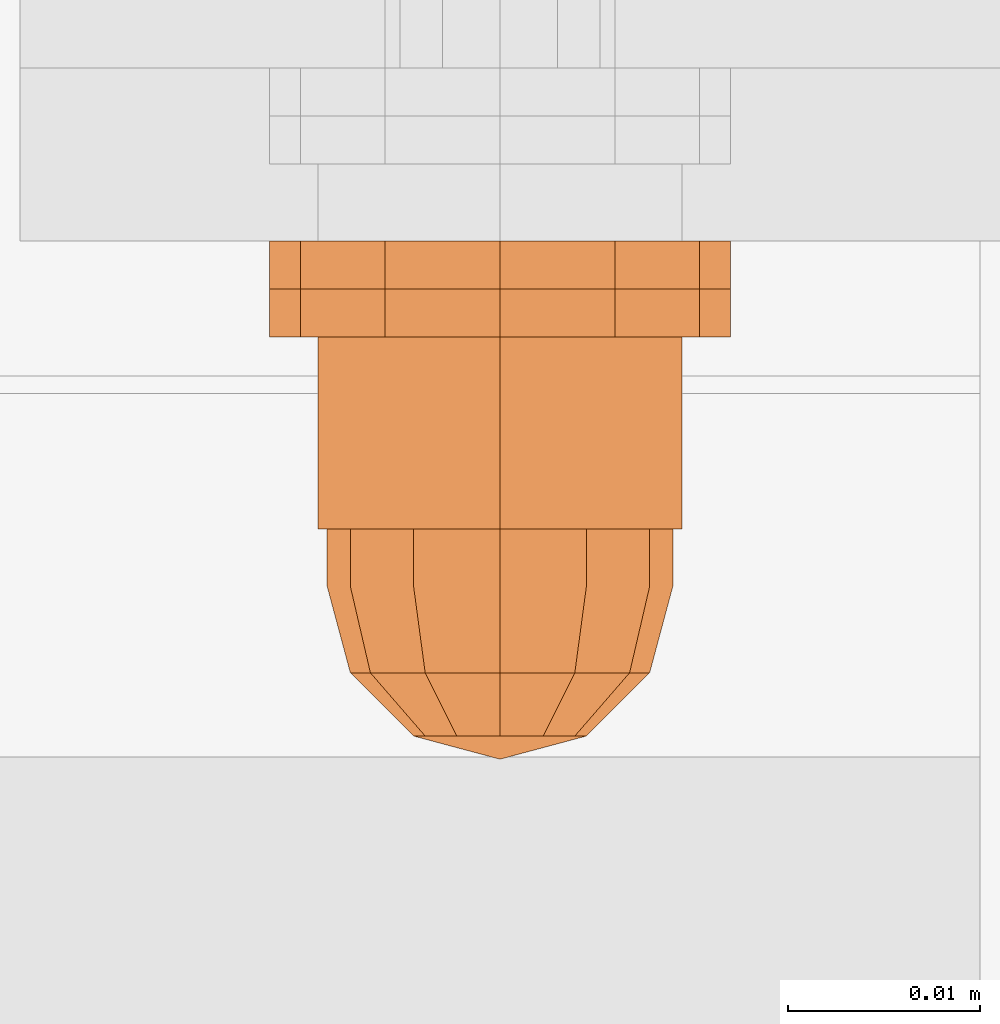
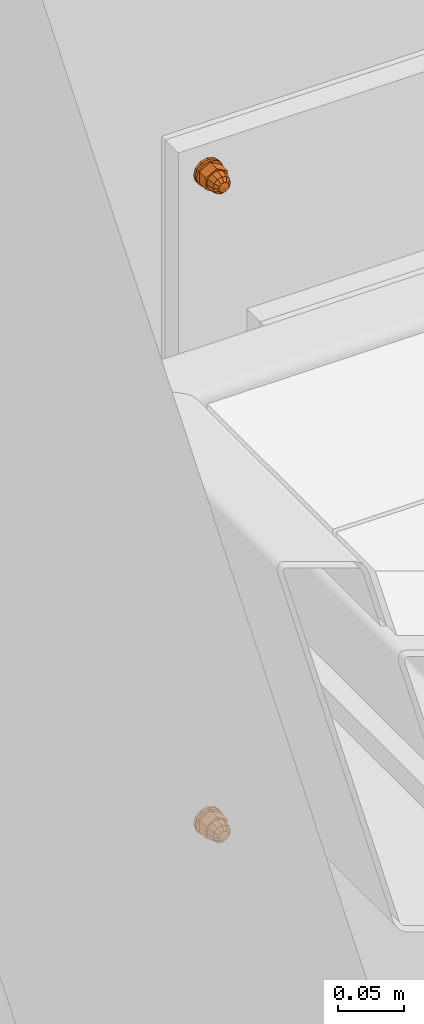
# One storey, part 135 of 162: 6 proxies.
"""IFC2X3 building model written with IfcOpenShell, lengths in millimetres."""

import ifcopenshell
import ifcopenshell.guid

model = None  # the IFC model being written
_history = None  # IfcOwnerHistory: only IFC2X3 demands one
_inside = {}  # id of a spatial element -> (the spatial element, [elements in it])
_under = {}  # id of a project, library or spatial element -> (it, [spatial elements below it])
_declared = {}  # id of a project -> (the project, [libraries it declares])
_typed = {}  # id of a type object -> (the type object, [elements of that type])
_made_of = {}  # id of a material, layer set ... -> (it, [elements and type objects made of it])


def new_model(schema):
    """Start an empty IFC model of exactly this schema.

    Asked for "IFC4X3", IfcOpenShell would pick the latest addendum, in which some entities
    have other attributes; the version numbers below select the first issue.
    IFC2X3 requires an IfcOwnerHistory on every rooted entity: one is made here for all.
    """
    global model, _history
    if schema == "IFC4X3":
        model = ifcopenshell.file(schema_version=(4, 3, 0, 0))
    else:
        model = ifcopenshell.file(schema=schema)
    _inside.clear()
    _under.clear()
    _declared.clear()
    _typed.clear()
    _made_of.clear()
    _history = None
    if model.schema == "IFC2X3":
        org = make("IfcOrganization", Name="unknown")
        user = make(
            "IfcPersonAndOrganization",
            ThePerson=make("IfcPerson", FamilyName="unknown"),
            TheOrganization=org,
        )
        app = make(
            "IfcApplication",
            ApplicationDeveloper=org,
            Version="unknown",
            ApplicationFullName="unknown",
            ApplicationIdentifier="unknown",
        )
        _history = make(
            "IfcOwnerHistory",
            OwningUser=user,
            OwningApplication=app,
            ChangeAction="ADDED",
            CreationDate=0,
        )
    return model


def make(cls, **values):
    """One entity of the class cls with the attributes given. An attribute that is None is left unset."""
    return model.create_entity(
        cls, **{name: value for name, value in values.items() if value is not None}
    )


def entity(cls, *values):
    """Any entity or typed value of the class cls, its attributes in the order of the schema. None: left unset."""
    e = model.create_entity(cls)
    for i, value in enumerate(values):
        if value is not None:
            e[i] = value
    return e


def rooted(cls, **values):
    """An entity with a GlobalId (a new one), such as an element, a storey or a relation."""
    return make(cls, GlobalId=ifcopenshell.guid.new(), OwnerHistory=_history, **values)


def si_unit(unit_type, name, prefix=None):
    """IfcSIUnit, for example si_unit("LENGTHUNIT", "METRE", prefix="MILLI")."""
    return make("IfcSIUnit", UnitType=unit_type, Prefix=prefix, Name=name)


def converted_unit(unit_type, name, factor, base, dimensions=None, offset=None):
    """IfcConversionBasedUnit, such as the inch: factor (a typed value) times the base unit."""
    return make(
        "IfcConversionBasedUnit"
        if offset is None
        else "IfcConversionBasedUnitWithOffset",
        ConversionOffset=offset,
        Dimensions=None
        if dimensions is None
        else entity("IfcDimensionalExponents", *dimensions),
        UnitType=unit_type,
        Name=name,
        ConversionFactor=make(
            "IfcMeasureWithUnit", ValueComponent=factor, UnitComponent=base
        ),
    )


def assignment(units):
    """IfcUnitAssignment: the units of a project."""
    return None if units is None else make("IfcUnitAssignment", Units=units)


def point(xyz):
    """IfcCartesianPoint."""
    return None if xyz is None else make("IfcCartesianPoint", Coordinates=xyz)


def direction(xyz):
    """IfcDirection."""
    return None if xyz is None else make("IfcDirection", DirectionRatios=xyz)


def frame(location, z_axis=None, x_axis=None):
    """IfcAxis2Placement3D, a coordinate frame: its origin and axes. An axis left out is left unset."""
    return make(
        "IfcAxis2Placement3D",
        Location=point(location),
        Axis=direction(z_axis),
        RefDirection=direction(x_axis),
    )


def origin_with_axes():
    """The frame at (0, 0, 0) with the z axis (0, 0, 1) and the x axis (1, 0, 0) written out."""
    return frame((0.0, 0.0, 0.0), z_axis=(0.0, 0.0, 1.0), x_axis=(1.0, 0.0, 0.0))


def place(relative_to, where):
    """IfcLocalPlacement: puts the frame where relative to a parent placement (None: the world)."""
    return make(
        "IfcLocalPlacement", PlacementRelTo=relative_to, RelativePlacement=where
    )


def context(
    kind, dimensions, precision=None, world=None, true_north=None, identifier=None
):
    """IfcGeometricRepresentationContext, for example the 3D "Model" context."""
    return make(
        "IfcGeometricRepresentationContext",
        ContextIdentifier=identifier,
        ContextType=kind,
        CoordinateSpaceDimension=dimensions,
        Precision=precision,
        WorldCoordinateSystem=world,
        TrueNorth=true_north,
    )


def project(units=None, contexts=None):
    """IfcProject with its units and contexts."""
    return rooted(
        "IfcProject",
        Name="project",
        RepresentationContexts=contexts,
        UnitsInContext=assignment(units),
    )


def spatial(cls, under=None, at=None, **own):
    """A site, building, storey or space (cls), placed at a placement, below another one or the project."""
    s = rooted(cls, ObjectPlacement=at, **own)
    if under is not None:
        _under.setdefault(under.id(), (under, []))[1].append(s)
    return s


def faces_of(points, faces, orient=None, outer=None):
    """IfcFace entities. A face is a list of loops; a loop is a list of indices into points, from 0.

    orient and outer hold one flag for each loop. By default every Orientation is true, the
    first loop of a face is its IfcFaceOuterBound and the others are IfcFaceBound.
    """
    made = []
    for i, loops in enumerate(faces):
        bounds = []
        for j, loop in enumerate(loops):
            is_outer = j == 0 if outer is None else outer[i][j]
            bounds.append(
                make(
                    "IfcFaceOuterBound" if is_outer else "IfcFaceBound",
                    Bound=make("IfcPolyLoop", Polygon=[points[k] for k in loop]),
                    Orientation=True if orient is None else orient[i][j],
                )
            )
        made.append(make("IfcFace", Bounds=bounds))
    return made


def faceted_brep(points, faces, orient=None, outer=None, voids=None):
    """IfcFacetedBrep: a solid bounded by flat faces; with voids (closed shells), ...WithVoids."""
    shared = [point(p) for p in points]
    hull = make("IfcClosedShell", CfsFaces=faces_of(shared, faces, orient, outer))
    if voids is None:
        return make("IfcFacetedBrep", Outer=hull)
    return make(
        "IfcFacetedBrepWithVoids",
        Outer=hull,
        Voids=[
            make(cls, CfsFaces=faces_of(shared, fs, o, b)) for cls, fs, o, b in voids
        ],
    )


def shape(context_of_items, identifier, shape_type, items):
    """IfcShapeRepresentation: the items that make up one representation, for example the "Body"."""
    return make(
        "IfcShapeRepresentation",
        ContextOfItems=context_of_items,
        RepresentationIdentifier=identifier,
        RepresentationType=shape_type,
        Items=items,
    )


def material(Name=None, Category=None):
    """IfcMaterial."""
    return make("IfcMaterial", Name=Name, Category=Category)


def made_of(thing, what):
    """Note that an element or type object is made of a material, layer set ...; save() writes the relation."""
    if what is not None:
        _made_of.setdefault(what.id(), (what, []))[1].append(thing)
    return thing


def element(
    cls,
    number,
    at=None,
    inside=None,
    cuts=None,
    type_object=None,
    material=None,
    context=None,
    identifier="Body",
    shape_type=None,
    held_by="IfcProductDefinitionShape",
    body=None,
    shapes=None,
    **own,
):
    """One element of the class cls, such as IfcWall. Its Tag is "e" and its number.

    at: its placement. inside: the storey or other place that contains it. cuts: it is an
    opening in that element (IfcRelVoidsElement). A single representation is given by context,
    identifier, shape_type and body (its items); several are given by shapes. held_by: the class
    of the entity that holds the representations. save() writes the other relations.
    """
    e = rooted(cls, Tag="e%d" % number, ObjectPlacement=at, **own)
    if body is not None:
        shapes = [shape(context, identifier, shape_type, body)]
    if shapes is not None:
        e.Representation = make(held_by, Representations=shapes)
    if inside is not None:
        _inside.setdefault(inside.id(), (inside, []))[1].append(e)
    if cuts is not None:
        rooted(
            "IfcRelVoidsElement", RelatingBuildingElement=cuts, RelatedOpeningElement=e
        )
    if type_object is not None:
        _typed.setdefault(type_object.id(), (type_object, []))[1].append(e)
    return made_of(e, material)


def aggregate(whole, parts):
    """IfcRelAggregates: a whole, such as a stair, and the parts it consists of."""
    return rooted("IfcRelAggregates", RelatingObject=whole, RelatedObjects=parts)


def save(model, path):
    """Write the relations noted so far, then the file.

    IfcRelAggregates (storeys below a building ...), IfcRelContainedInSpatialStructure (elements
    in a storey), IfcRelDefinesByType, IfcRelAssociatesMaterial and IfcRelDeclares: one each for
    every whole, place, type object, material and project.
    """
    for whole, parts in _under.values():
        aggregate(whole, parts)
    for where, things in _inside.values():
        rooted(
            "IfcRelContainedInSpatialStructure",
            RelatedElements=things,
            RelatingStructure=where,
        )
    for kind, things in _typed.values():
        rooted("IfcRelDefinesByType", RelatedObjects=things, RelatingType=kind)
    for what, things in _made_of.values():
        rooted("IfcRelAssociatesMaterial", RelatedObjects=things, RelatingMaterial=what)
    for by, libraries in _declared.values():
        rooted("IfcRelDeclares", RelatingContext=by, RelatedDefinitions=libraries)
    model.write(path)


model = new_model("IFC2X3")

# Units and contexts
model_context = context("Model", 3, precision=1e-09, world=origin_with_axes())
ifc_project = project(units=[si_unit("LENGTHUNIT", "METRE", prefix="MILLI"), si_unit("AREAUNIT", "SQUARE_METRE"), si_unit("VOLUMEUNIT", "CUBIC_METRE"), converted_unit("PLANEANGLEUNIT", "DEGREE", entity("IfcPlaneAngleMeasure", 0.01745329), si_unit("PLANEANGLEUNIT", "RADIAN"), dimensions=[0, 0, 0, 0, 0, 0, 0])], contexts=[model_context])

# Site, building, storey
site_placement = place(None, origin_with_axes())
site = spatial("IfcSite", under=ifc_project, at=site_placement, Name="Hermannstra?e 1a, 60318 Frankfurt", CompositionType="ELEMENT")
building_placement = place(site_placement, origin_with_axes())
building = spatial("IfcBuilding", under=site, at=building_placement, Name="Struktur 1", CompositionType="ELEMENT")
storey_placement = place(building_placement, origin_with_axes())
storey = spatial("IfcBuildingStorey", under=building, at=storey_placement, Name="Default Storey", CompositionType="ELEMENT", Elevation=0.0)

# Proxies
ifc_material_1 = material(Name="A4")
proxy_1_placement = place(None, origin_with_axes())
element("IfcBuildingElementProxy", 1, at=proxy_1_placement, inside=storey, material=ifc_material_1, ObjectType="-", context=model_context, shape_type="Brep", body=[
    faceted_brep([(2684.309364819, 2695.609373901, 11004.999), (2684.309364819, 2705.609373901, 11004.999), (2683.505517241, 2705.609373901, 11001.999), (2683.505517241, 2695.609373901, 11001.999), (2681.309364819, 2705.609373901, 10999.802847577), (2681.309364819, 2695.609373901, 10999.802847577), (2683.505517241, 2695.609373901, 11007.999), (2683.505517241, 2705.609373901, 11007.999), (2687.789234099, 2705.609373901, 11010.472205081), (2687.789234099, 2705.609373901, 10999.525794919), (2678.309364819, 2705.609373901, 10994.052589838), (2668.829495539, 2705.609373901, 10999.525794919), (2668.829495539, 2705.609373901, 11010.472205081), (2678.309364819, 2705.609373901, 11015.945410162), (2681.309364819, 2705.609373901, 11010.195152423), (2678.309364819, 2705.609373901, 11010.999), (2675.309364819, 2705.609373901, 11010.195152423), (2673.113212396, 2705.609373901, 11007.999), (2672.309364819, 2705.609373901, 11004.999), (2673.113212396, 2705.609373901, 11001.999), (2675.309364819, 2705.609373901, 10999.802847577), (2678.309364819, 2705.609373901, 10998.999), (2687.789234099, 2695.609373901, 11010.472205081), (2678.309364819, 2695.609373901, 11015.945410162), (2668.829495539, 2695.609373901, 11010.472205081), (2668.829495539, 2695.609373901, 10999.525794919), (2678.309364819, 2695.609373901, 10994.052589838), (2687.789234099, 2695.609373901, 10999.525794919), (2681.309364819, 2695.609373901, 11010.195152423), (2678.309364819, 2695.609373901, 10998.999), (2678.309364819, 2695.609373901, 11010.999), (2675.309364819, 2695.609373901, 10999.802847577), (2675.309364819, 2695.609373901, 11010.195152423), (2673.113212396, 2695.609373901, 11001.999), (2673.113212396, 2695.609373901, 11007.999), (2672.309364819, 2695.609373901, 11004.999)], [[[0, 1, 2, 3]], [[3, 2, 4, 5]], [[1, 0, 6, 7]], [[8, 9, 10, 11, 12, 13], [7, 14, 15, 16, 17, 18, 19, 20, 21, 4, 2, 1]], [[22, 23, 24, 25, 26, 27]], [[7, 6, 28, 14]], [[22, 27, 9, 8]], [[5, 4, 21, 29]], [[10, 9, 27, 26]], [[14, 28, 30, 15]], [[23, 22, 8, 13]], [[29, 21, 20, 31]], [[11, 10, 26, 25]], [[15, 30, 32, 16]], [[24, 23, 13, 12]], [[31, 20, 19, 33]], [[25, 24, 12, 11]], [[16, 32, 34, 17]], [[33, 19, 18, 35]], [[17, 34, 35, 18]]]),
    faceted_brep([(2678.309364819, 2692.609373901, 11013.999), (2678.309364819, 2695.609373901, 11013.999), (2673.809364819, 2695.609373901, 11012.793228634), (2673.809364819, 2692.609373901, 11012.793228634), (2682.809364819, 2692.609373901, 11012.793228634), (2682.809364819, 2695.609373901, 11012.793228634), (2682.809364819, 2692.609373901, 10997.204771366), (2686.103593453, 2692.609373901, 11000.499), (2687.309364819, 2692.609373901, 11004.999), (2686.103593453, 2692.609373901, 11009.499), (2670.515136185, 2692.609373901, 11009.499), (2669.309364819, 2692.609373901, 11004.999), (2670.515136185, 2692.609373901, 11000.499), (2673.809364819, 2692.609373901, 10997.204771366), (2678.309364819, 2692.609373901, 10995.999), (2673.809364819, 2695.609373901, 10997.204771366), (2670.515136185, 2695.609373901, 11000.499), (2669.309364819, 2695.609373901, 11004.999), (2670.515136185, 2695.609373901, 11009.499), (2686.103593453, 2695.609373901, 11009.499), (2687.309364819, 2695.609373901, 11004.999), (2686.103593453, 2695.609373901, 11000.499), (2682.809364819, 2695.609373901, 10997.204771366), (2678.309364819, 2695.609373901, 10995.999)], [[[0, 1, 2, 3]], [[1, 0, 4, 5]], [[6, 7, 8, 9, 4, 0, 3, 10, 11, 12, 13, 14]], [[15, 16, 17, 18, 2, 1, 5, 19, 20, 21, 22, 23]], [[3, 2, 18, 10]], [[5, 4, 9, 19]], [[10, 18, 17, 11]], [[19, 9, 8, 20]], [[22, 6, 14, 23]], [[7, 21, 20, 8]], [[6, 22, 21, 7]], [[11, 17, 16, 12]], [[23, 14, 13, 15]], [[12, 16, 15, 13]]]),
    faceted_brep([(2685.059364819, 2688.109373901, 11008.896114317), (2686.103593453, 2692.609373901, 11009.499), (2682.809364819, 2692.609373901, 11012.793228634), (2682.206479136, 2688.109373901, 11011.749), (2673.809364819, 2692.609373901, 10997.204771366), (2670.515136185, 2692.609373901, 11000.499), (2669.309364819, 2692.609373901, 11004.999), (2670.515136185, 2692.609373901, 11009.499), (2673.809364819, 2692.609373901, 11012.793228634), (2678.309364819, 2692.609373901, 11013.999), (2687.309364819, 2692.609373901, 11004.999), (2686.103593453, 2692.609373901, 11000.499), (2682.809364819, 2692.609373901, 10997.204771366), (2678.309364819, 2692.609373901, 10995.999), (2678.309364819, 2688.109373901, 11012.793228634), (2682.809364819, 2684.815145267, 11004.999), (2686.103593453, 2688.109373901, 11004.999), (2682.206479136, 2684.815145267, 11007.249), (2674.412250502, 2688.109373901, 11011.749), (2680.559364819, 2684.815145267, 11008.896114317), (2682.206479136, 2684.815145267, 11002.749), (2685.059364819, 2688.109373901, 11001.101885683), (2678.309364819, 2684.815145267, 11009.499), (2678.309364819, 2683.609373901, 11004.999), (2680.559364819, 2684.815145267, 11001.101885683), (2682.206479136, 2688.109373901, 10998.249), (2678.309364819, 2688.109373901, 10997.204771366), (2671.559364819, 2688.109373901, 11008.896114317), (2676.059364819, 2684.815145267, 11008.896114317), (2678.309364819, 2684.815145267, 11000.499), (2674.412250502, 2688.109373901, 10998.249), (2676.059364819, 2684.815145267, 11001.101885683), (2670.515136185, 2688.109373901, 11004.999), (2674.412250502, 2684.815145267, 11007.249), (2671.559364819, 2688.109373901, 11001.101885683), (2674.412250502, 2684.815145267, 11002.749), (2673.809364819, 2684.815145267, 11004.999)], [[[0, 1, 2, 3]], [[4, 5, 6, 7, 8, 9, 2, 1, 10, 11, 12, 13]], [[3, 2, 9, 14]], [[15, 16, 0, 17]], [[1, 0, 16, 10]], [[14, 9, 8, 18]], [[17, 0, 3, 19]], [[16, 15, 20, 21]], [[19, 3, 14, 22]], [[17, 23, 15]], [[24, 25, 21, 20]], [[15, 23, 20]], [[12, 25, 26, 13]], [[11, 21, 25, 12]], [[10, 16, 21, 11]], [[18, 8, 7, 27]], [[22, 14, 18, 28]], [[19, 23, 17]], [[29, 26, 25, 24]], [[20, 23, 24]], [[22, 23, 19]], [[13, 26, 30, 4]], [[26, 29, 31, 30]], [[24, 23, 29]], [[27, 7, 6, 32]], [[28, 18, 27, 33]], [[28, 23, 22]], [[29, 23, 31]], [[33, 23, 28]], [[4, 30, 34, 5]], [[30, 31, 35, 34]], [[31, 23, 35]], [[32, 6, 5, 34]], [[33, 27, 32, 36]], [[36, 23, 33]], [[35, 23, 36]], [[34, 35, 36, 32]]]),
])
proxy_2_placement = place(None, origin_with_axes())
element("IfcBuildingElementProxy", 2, at=proxy_2_placement, inside=storey, material=ifc_material_1, ObjectType="-", context=model_context, shape_type="Brep", body=[
    faceted_brep([(2667.917059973, 2708.109373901, 11010.999), (2667.917059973, 2705.609373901, 11010.999), (2672.309364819, 2705.609373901, 11015.391304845), (2672.309364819, 2708.109373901, 11015.391304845), (2666.309364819, 2705.609373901, 11004.999), (2667.917059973, 2705.609373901, 10998.999), (2672.309364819, 2705.609373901, 10994.606695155), (2678.309364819, 2705.609373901, 10992.999), (2684.309364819, 2705.609373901, 10994.606695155), (2688.701669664, 2705.609373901, 10998.999), (2690.309364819, 2705.609373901, 11004.999), (2688.701669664, 2705.609373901, 11010.999), (2684.309364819, 2705.609373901, 11015.391304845), (2678.309364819, 2705.609373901, 11016.999), (2678.309364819, 2705.609373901, 11011.499), (2681.559364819, 2705.609373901, 11010.628165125), (2683.938529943, 2705.609373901, 11008.249), (2684.809364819, 2705.609373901, 11004.999), (2683.938529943, 2705.609373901, 11001.749), (2681.559364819, 2705.609373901, 10999.369834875), (2678.309364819, 2705.609373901, 10998.499), (2675.059364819, 2705.609373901, 10999.369834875), (2672.680199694, 2705.609373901, 11001.749), (2671.809364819, 2705.609373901, 11004.999), (2672.680199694, 2705.609373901, 11008.249), (2675.059364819, 2705.609373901, 11010.628165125), (2672.680199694, 2708.109373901, 11008.249), (2671.809364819, 2708.109373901, 11004.999), (2672.680199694, 2708.109373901, 11001.749), (2675.059364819, 2708.109373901, 10999.369834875), (2678.309364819, 2708.109373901, 10998.499), (2681.559364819, 2708.109373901, 10999.369834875), (2683.938529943, 2708.109373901, 11001.749), (2684.809364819, 2708.109373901, 11004.999), (2683.938529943, 2708.109373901, 11008.249), (2681.559364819, 2708.109373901, 11010.628165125), (2678.309364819, 2708.109373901, 11011.499), (2675.059364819, 2708.109373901, 11010.628165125), (2666.309364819, 2708.109373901, 11004.999), (2678.309364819, 2708.109373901, 11016.999), (2667.917059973, 2708.109373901, 10998.999), (2684.309364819, 2708.109373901, 11015.391304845), (2672.309364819, 2708.109373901, 10994.606695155), (2688.701669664, 2708.109373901, 11010.999), (2678.309364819, 2708.109373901, 10992.999), (2690.309364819, 2708.109373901, 11004.999), (2684.309364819, 2708.109373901, 10994.606695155), (2688.701669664, 2708.109373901, 10998.999)], [[[0, 1, 2, 3]], [[2, 1, 4, 5, 6, 7, 8, 9, 10, 11, 12, 13], [14, 15, 16, 17, 18, 19, 20, 21, 22, 23, 24, 25]], [[26, 27, 28, 29, 30, 31, 32, 33, 34, 35, 36, 37]], [[24, 26, 37, 25]], [[1, 0, 38, 4]], [[26, 24, 23, 27]], [[25, 37, 36, 14]], [[3, 2, 13, 39]], [[4, 38, 40, 5]], [[27, 23, 22, 28]], [[14, 36, 35, 15]], [[39, 13, 12, 41]], [[5, 40, 42, 6]], [[28, 22, 21, 29]], [[15, 35, 34, 16]], [[41, 12, 11, 43]], [[33, 17, 16, 34]], [[6, 42, 44, 7]], [[29, 21, 20, 30]], [[32, 18, 17, 33]], [[43, 11, 10, 45]], [[19, 31, 30, 20]], [[18, 32, 31, 19]], [[7, 44, 46, 8]], [[45, 10, 9, 47]], [[8, 46, 47, 9]]]),
])
ifc_material_2 = material(Name="Kunststoff")
proxy_3_placement = place(None, origin_with_axes())
element("IfcBuildingElementProxy", 3, at=proxy_3_placement, inside=storey, material=ifc_material_2, ObjectType="-", context=model_context, shape_type="Brep", body=[
    faceted_brep([(2688.701669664, 2710.609373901, 11010.999), (2688.701669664, 2708.109373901, 11010.999), (2690.309364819, 2708.109373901, 11004.999), (2690.309364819, 2710.609373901, 11004.999), (2683.938529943, 2710.609373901, 11008.249), (2681.559364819, 2710.609373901, 11010.628165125), (2678.309364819, 2710.609373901, 11011.499), (2675.059364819, 2710.609373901, 11010.628165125), (2672.680199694, 2710.609373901, 11008.249), (2671.809364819, 2710.609373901, 11004.999), (2672.680199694, 2710.609373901, 11001.749), (2675.059364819, 2710.609373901, 10999.369834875), (2678.309364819, 2710.609373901, 10998.499), (2681.559364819, 2710.609373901, 10999.369834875), (2683.938529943, 2710.609373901, 11001.749), (2684.809364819, 2710.609373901, 11004.999), (2684.809364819, 2708.109373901, 11004.999), (2683.938529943, 2708.109373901, 11008.249), (2684.309364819, 2708.109373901, 11015.391304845), (2678.309364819, 2708.109373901, 11016.999), (2672.309364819, 2708.109373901, 11015.391304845), (2667.917059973, 2708.109373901, 11010.999), (2666.309364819, 2708.109373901, 11004.999), (2667.917059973, 2708.109373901, 10998.999), (2672.309364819, 2708.109373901, 10994.606695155), (2678.309364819, 2708.109373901, 10992.999), (2684.309364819, 2708.109373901, 10994.606695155), (2688.701669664, 2708.109373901, 10998.999), (2684.309364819, 2710.609373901, 11015.391304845), (2683.938529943, 2708.109373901, 11001.749), (2688.701669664, 2710.609373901, 10998.999), (2681.559364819, 2708.109373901, 11010.628165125), (2678.309364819, 2710.609373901, 11016.999), (2681.559364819, 2708.109373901, 10999.369834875), (2684.309364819, 2710.609373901, 10994.606695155), (2678.309364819, 2708.109373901, 11011.499), (2678.309364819, 2708.109373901, 10998.499), (2672.309364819, 2710.609373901, 11015.391304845), (2675.059364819, 2708.109373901, 11010.628165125), (2678.309364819, 2710.609373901, 10992.999), (2675.059364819, 2708.109373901, 10999.369834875), (2667.917059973, 2710.609373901, 11010.999), (2672.680199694, 2708.109373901, 11008.249), (2672.309364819, 2710.609373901, 10994.606695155), (2672.680199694, 2708.109373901, 11001.749), (2666.309364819, 2710.609373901, 11004.999), (2671.809364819, 2708.109373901, 11004.999), (2667.917059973, 2710.609373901, 10998.999)], [[[0, 1, 2, 3]], [[4, 5, 6, 7, 8, 9, 10, 11, 12, 13, 14, 15]], [[15, 16, 17, 4]], [[1, 18, 19, 20, 21, 22, 23, 24, 25, 26, 27, 2]], [[1, 0, 28, 18]], [[16, 15, 14, 29]], [[3, 2, 27, 30]], [[4, 17, 31, 5]], [[18, 28, 32, 19]], [[29, 14, 13, 33]], [[30, 27, 26, 34]], [[5, 31, 35, 6]], [[33, 13, 12, 36]], [[19, 32, 37, 20]], [[6, 35, 38, 7]], [[34, 26, 25, 39]], [[36, 12, 11, 40]], [[20, 37, 41, 21]], [[7, 38, 42, 8]], [[39, 25, 24, 43]], [[40, 11, 10, 44]], [[21, 41, 45, 22]], [[8, 42, 46, 9]], [[43, 24, 23, 47]], [[44, 10, 9, 46]], [[22, 45, 47, 23]]]),
])
proxy_4_placement = place(None, origin_with_axes())
element("IfcBuildingElementProxy", 4, at=proxy_4_placement, inside=storey, material=ifc_material_1, ObjectType="-", context=model_context, shape_type="Brep", body=[
    faceted_brep([(2684.309364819, 2705.609373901, 11604.999), (2684.309364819, 2695.609373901, 11604.999), (2683.505517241, 2695.609373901, 11607.999), (2683.505517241, 2705.609373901, 11607.999), (2681.309364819, 2695.609373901, 11610.195152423), (2681.309364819, 2705.609373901, 11610.195152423), (2683.505517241, 2705.609373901, 11601.999), (2683.505517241, 2695.609373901, 11601.999), (2687.789234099, 2705.609373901, 11599.525794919), (2678.309364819, 2705.609373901, 11594.052589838), (2668.829495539, 2705.609373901, 11599.525794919), (2668.829495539, 2705.609373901, 11610.472205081), (2678.309364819, 2705.609373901, 11615.945410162), (2687.789234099, 2705.609373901, 11610.472205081), (2681.309364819, 2705.609373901, 11599.802847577), (2678.309364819, 2705.609373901, 11610.999), (2675.309364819, 2705.609373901, 11610.195152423), (2673.113212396, 2705.609373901, 11607.999), (2672.309364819, 2705.609373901, 11604.999), (2673.113212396, 2705.609373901, 11601.999), (2675.309364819, 2705.609373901, 11599.802847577), (2678.309364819, 2705.609373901, 11598.999), (2678.309364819, 2695.609373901, 11594.052589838), (2687.789234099, 2695.609373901, 11599.525794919), (2687.789234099, 2695.609373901, 11610.472205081), (2678.309364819, 2695.609373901, 11615.945410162), (2668.829495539, 2695.609373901, 11610.472205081), (2668.829495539, 2695.609373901, 11599.525794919), (2681.309364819, 2695.609373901, 11599.802847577), (2678.309364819, 2695.609373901, 11598.999), (2675.309364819, 2695.609373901, 11599.802847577), (2673.113212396, 2695.609373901, 11601.999), (2672.309364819, 2695.609373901, 11604.999), (2673.113212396, 2695.609373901, 11607.999), (2675.309364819, 2695.609373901, 11610.195152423), (2678.309364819, 2695.609373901, 11610.999)], [[[0, 1, 2, 3]], [[3, 2, 4, 5]], [[1, 0, 6, 7]], [[8, 9, 10, 11, 12, 13], [14, 6, 0, 3, 5, 15, 16, 17, 18, 19, 20, 21]], [[22, 23, 24, 25, 26, 27], [1, 7, 28, 29, 30, 31, 32, 33, 34, 35, 4, 2]], [[7, 6, 14, 28]], [[24, 23, 8, 13]], [[5, 4, 35, 15]], [[13, 12, 25, 24]], [[28, 14, 21, 29]], [[23, 22, 9, 8]], [[15, 35, 34, 16]], [[12, 11, 26, 25]], [[29, 21, 20, 30]], [[22, 27, 10, 9]], [[16, 34, 33, 17]], [[27, 26, 11, 10]], [[30, 20, 19, 31]], [[17, 33, 32, 18]], [[31, 19, 18, 32]]]),
    faceted_brep([(2678.309364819, 2695.609373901, 11595.999), (2678.309364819, 2692.609373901, 11595.999), (2673.809364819, 2692.609373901, 11597.204771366), (2673.809364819, 2695.609373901, 11597.204771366), (2682.809364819, 2695.609373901, 11597.204771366), (2682.809364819, 2692.609373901, 11597.204771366), (2686.103593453, 2692.609373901, 11609.499), (2682.809364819, 2692.609373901, 11612.793228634), (2678.309364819, 2692.609373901, 11613.999), (2673.809364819, 2692.609373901, 11612.793228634), (2670.515136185, 2692.609373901, 11609.499), (2669.309364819, 2692.609373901, 11604.999), (2670.515136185, 2692.609373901, 11600.499), (2686.103593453, 2692.609373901, 11600.499), (2687.309364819, 2692.609373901, 11604.999), (2670.515136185, 2695.609373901, 11609.499), (2673.809364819, 2695.609373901, 11612.793228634), (2678.309364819, 2695.609373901, 11613.999), (2682.809364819, 2695.609373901, 11612.793228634), (2686.103593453, 2695.609373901, 11609.499), (2687.309364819, 2695.609373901, 11604.999), (2686.103593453, 2695.609373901, 11600.499), (2670.515136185, 2695.609373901, 11600.499), (2669.309364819, 2695.609373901, 11604.999)], [[[0, 1, 2, 3]], [[1, 0, 4, 5]], [[6, 7, 8, 9, 10, 11, 12, 2, 1, 5, 13, 14]], [[15, 16, 17, 18, 19, 20, 21, 4, 0, 3, 22, 23]], [[3, 2, 12, 22]], [[5, 4, 21, 13]], [[22, 12, 11, 23]], [[13, 21, 20, 14]], [[7, 18, 17, 8]], [[19, 6, 14, 20]], [[18, 7, 6, 19]], [[23, 11, 10, 15]], [[8, 17, 16, 9]], [[15, 10, 9, 16]]]),
    faceted_brep([(2686.103593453, 2692.609373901, 11600.499), (2685.059364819, 2688.109373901, 11601.101885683), (2682.206479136, 2688.109373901, 11598.249), (2682.809364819, 2692.609373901, 11597.204771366), (2670.515136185, 2692.609373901, 11609.499), (2673.809364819, 2692.609373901, 11612.793228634), (2678.309364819, 2692.609373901, 11613.999), (2682.809364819, 2692.609373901, 11612.793228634), (2686.103593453, 2692.609373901, 11609.499), (2687.309364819, 2692.609373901, 11604.999), (2678.309364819, 2692.609373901, 11595.999), (2673.809364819, 2692.609373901, 11597.204771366), (2670.515136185, 2692.609373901, 11600.499), (2669.309364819, 2692.609373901, 11604.999), (2678.309364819, 2688.109373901, 11597.204771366), (2686.103593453, 2688.109373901, 11604.999), (2682.809364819, 2684.815145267, 11604.999), (2682.206479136, 2684.815145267, 11602.749), (2674.412250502, 2688.109373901, 11598.249), (2680.559364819, 2684.815145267, 11601.101885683), (2685.059364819, 2688.109373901, 11608.896114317), (2682.206479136, 2684.815145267, 11607.249), (2678.309364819, 2684.815145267, 11600.499), (2678.309364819, 2683.609373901, 11604.999), (2682.206479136, 2688.109373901, 11611.749), (2680.559364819, 2684.815145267, 11608.896114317), (2678.309364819, 2688.109373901, 11612.793228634), (2671.559364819, 2688.109373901, 11601.101885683), (2676.059364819, 2684.815145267, 11601.101885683), (2678.309364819, 2684.815145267, 11609.499), (2674.412250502, 2688.109373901, 11611.749), (2676.059364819, 2684.815145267, 11608.896114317), (2670.515136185, 2688.109373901, 11604.999), (2674.412250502, 2684.815145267, 11602.749), (2671.559364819, 2688.109373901, 11608.896114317), (2674.412250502, 2684.815145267, 11607.249), (2673.809364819, 2684.815145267, 11604.999)], [[[0, 1, 2, 3]], [[4, 5, 6, 7, 8, 9, 0, 3, 10, 11, 12, 13]], [[3, 2, 14, 10]], [[15, 16, 17, 1]], [[1, 0, 9, 15]], [[10, 14, 18, 11]], [[1, 17, 19, 2]], [[16, 15, 20, 21]], [[2, 19, 22, 14]], [[23, 17, 16]], [[24, 25, 21, 20]], [[23, 16, 21]], [[24, 7, 6, 26]], [[20, 8, 7, 24]], [[15, 9, 8, 20]], [[11, 18, 27, 12]], [[14, 22, 28, 18]], [[23, 19, 17]], [[26, 29, 25, 24]], [[23, 21, 25]], [[23, 22, 19]], [[26, 6, 5, 30]], [[29, 26, 30, 31]], [[23, 25, 29]], [[12, 27, 32, 13]], [[18, 28, 33, 27]], [[23, 28, 22]], [[23, 29, 31]], [[23, 33, 28]], [[30, 5, 4, 34]], [[31, 30, 34, 35]], [[23, 31, 35]], [[13, 32, 34, 4]], [[27, 33, 36, 32]], [[23, 36, 33]], [[23, 35, 36]], [[35, 34, 32, 36]]]),
])
proxy_5_placement = place(None, origin_with_axes())
element("IfcBuildingElementProxy", 5, at=proxy_5_placement, inside=storey, material=ifc_material_2, ObjectType="-", context=model_context, shape_type="Brep", body=[
    faceted_brep([(2688.701669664, 2708.109373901, 11598.999), (2688.701669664, 2710.609373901, 11598.999), (2690.309364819, 2710.609373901, 11604.999), (2690.309364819, 2708.109373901, 11604.999), (2684.309364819, 2710.609373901, 11594.606695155), (2678.309364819, 2710.609373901, 11592.999), (2672.309364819, 2710.609373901, 11594.606695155), (2667.917059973, 2710.609373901, 11598.999), (2666.309364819, 2710.609373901, 11604.999), (2667.917059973, 2710.609373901, 11610.999), (2672.309364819, 2710.609373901, 11615.391304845), (2678.309364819, 2710.609373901, 11616.999), (2684.309364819, 2710.609373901, 11615.391304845), (2688.701669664, 2710.609373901, 11610.999), (2681.559364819, 2710.609373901, 11599.369834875), (2683.938529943, 2710.609373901, 11601.749), (2684.809364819, 2710.609373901, 11604.999), (2683.938529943, 2710.609373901, 11608.249), (2681.559364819, 2710.609373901, 11610.628165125), (2678.309364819, 2710.609373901, 11611.499), (2675.059364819, 2710.609373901, 11610.628165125), (2672.680199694, 2710.609373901, 11608.249), (2671.809364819, 2710.609373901, 11604.999), (2672.680199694, 2710.609373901, 11601.749), (2675.059364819, 2710.609373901, 11599.369834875), (2678.309364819, 2710.609373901, 11598.499), (2684.809364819, 2708.109373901, 11604.999), (2683.938529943, 2708.109373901, 11601.749), (2684.309364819, 2708.109373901, 11594.606695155), (2688.701669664, 2708.109373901, 11610.999), (2684.309364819, 2708.109373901, 11615.391304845), (2678.309364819, 2708.109373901, 11616.999), (2672.309364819, 2708.109373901, 11615.391304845), (2667.917059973, 2708.109373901, 11610.999), (2666.309364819, 2708.109373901, 11604.999), (2667.917059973, 2708.109373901, 11598.999), (2672.309364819, 2708.109373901, 11594.606695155), (2678.309364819, 2708.109373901, 11592.999), (2681.559364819, 2708.109373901, 11599.369834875), (2678.309364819, 2708.109373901, 11598.499), (2675.059364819, 2708.109373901, 11599.369834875), (2672.680199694, 2708.109373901, 11601.749), (2671.809364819, 2708.109373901, 11604.999), (2672.680199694, 2708.109373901, 11608.249), (2675.059364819, 2708.109373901, 11610.628165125), (2678.309364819, 2708.109373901, 11611.499), (2681.559364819, 2708.109373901, 11610.628165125), (2683.938529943, 2708.109373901, 11608.249)], [[[0, 1, 2, 3]], [[1, 4, 5, 6, 7, 8, 9, 10, 11, 12, 13, 2], [14, 15, 16, 17, 18, 19, 20, 21, 22, 23, 24, 25]], [[26, 16, 15, 27]], [[28, 0, 3, 29, 30, 31, 32, 33, 34, 35, 36, 37], [26, 27, 38, 39, 40, 41, 42, 43, 44, 45, 46, 47]], [[1, 0, 28, 4]], [[16, 26, 47, 17]], [[3, 2, 13, 29]], [[27, 15, 14, 38]], [[4, 28, 37, 5]], [[17, 47, 46, 18]], [[29, 13, 12, 30]], [[38, 14, 25, 39]], [[18, 46, 45, 19]], [[5, 37, 36, 6]], [[39, 25, 24, 40]], [[30, 12, 11, 31]], [[19, 45, 44, 20]], [[6, 36, 35, 7]], [[40, 24, 23, 41]], [[31, 11, 10, 32]], [[20, 44, 43, 21]], [[7, 35, 34, 8]], [[41, 23, 22, 42]], [[32, 10, 9, 33]], [[21, 43, 42, 22]], [[8, 34, 33, 9]]]),
])
proxy_6_placement = place(None, origin_with_axes())
element("IfcBuildingElementProxy", 6, at=proxy_6_placement, inside=storey, material=ifc_material_1, ObjectType="-", context=model_context, shape_type="Brep", body=[
    faceted_brep([(2667.917059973, 2705.609373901, 11598.999), (2667.917059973, 2708.109373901, 11598.999), (2672.309364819, 2708.109373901, 11594.606695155), (2672.309364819, 2705.609373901, 11594.606695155), (2678.309364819, 2705.609373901, 11592.999), (2684.309364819, 2705.609373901, 11594.606695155), (2688.701669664, 2705.609373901, 11598.999), (2690.309364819, 2705.609373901, 11604.999), (2688.701669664, 2705.609373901, 11610.999), (2684.309364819, 2705.609373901, 11615.391304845), (2678.309364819, 2705.609373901, 11616.999), (2672.309364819, 2705.609373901, 11615.391304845), (2667.917059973, 2705.609373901, 11610.999), (2666.309364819, 2705.609373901, 11604.999), (2681.559364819, 2705.609373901, 11599.369834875), (2678.309364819, 2705.609373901, 11598.499), (2675.059364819, 2705.609373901, 11599.369834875), (2672.680199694, 2705.609373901, 11601.749), (2671.809364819, 2705.609373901, 11604.999), (2672.680199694, 2705.609373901, 11608.249), (2675.059364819, 2705.609373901, 11610.628165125), (2678.309364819, 2705.609373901, 11611.499), (2681.559364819, 2705.609373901, 11610.628165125), (2683.938529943, 2705.609373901, 11608.249), (2684.809364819, 2705.609373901, 11604.999), (2683.938529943, 2705.609373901, 11601.749), (2666.309364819, 2708.109373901, 11604.999), (2667.917059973, 2708.109373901, 11610.999), (2672.309364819, 2708.109373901, 11615.391304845), (2678.309364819, 2708.109373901, 11616.999), (2684.309364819, 2708.109373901, 11615.391304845), (2688.701669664, 2708.109373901, 11610.999), (2690.309364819, 2708.109373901, 11604.999), (2688.701669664, 2708.109373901, 11598.999), (2684.309364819, 2708.109373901, 11594.606695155), (2678.309364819, 2708.109373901, 11592.999), (2671.809364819, 2708.109373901, 11604.999), (2672.680199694, 2708.109373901, 11601.749), (2675.059364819, 2708.109373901, 11599.369834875), (2678.309364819, 2708.109373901, 11598.499), (2681.559364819, 2708.109373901, 11599.369834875), (2683.938529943, 2708.109373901, 11601.749), (2684.809364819, 2708.109373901, 11604.999), (2683.938529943, 2708.109373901, 11608.249), (2681.559364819, 2708.109373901, 11610.628165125), (2678.309364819, 2708.109373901, 11611.499), (2675.059364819, 2708.109373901, 11610.628165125), (2672.680199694, 2708.109373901, 11608.249)], [[[0, 1, 2, 3]], [[3, 4, 5, 6, 7, 8, 9, 10, 11, 12, 13, 0], [14, 15, 16, 17, 18, 19, 20, 21, 22, 23, 24, 25]], [[1, 26, 27, 28, 29, 30, 31, 32, 33, 34, 35, 2], [36, 37, 38, 39, 40, 41, 42, 43, 44, 45, 46, 47]], [[37, 17, 16, 38]], [[1, 0, 13, 26]], [[17, 37, 36, 18]], [[38, 16, 15, 39]], [[3, 2, 35, 4]], [[26, 13, 12, 27]], [[18, 36, 47, 19]], [[39, 15, 14, 40]], [[4, 35, 34, 5]], [[27, 12, 11, 28]], [[19, 47, 46, 20]], [[40, 14, 25, 41]], [[5, 34, 33, 6]], [[24, 42, 41, 25]], [[28, 11, 10, 29]], [[20, 46, 45, 21]], [[23, 43, 42, 24]], [[6, 33, 32, 7]], [[44, 22, 21, 45]], [[43, 23, 22, 44]], [[29, 10, 9, 30]], [[7, 32, 31, 8]], [[30, 9, 8, 31]]]),
])

save(model, "model.ifc")
